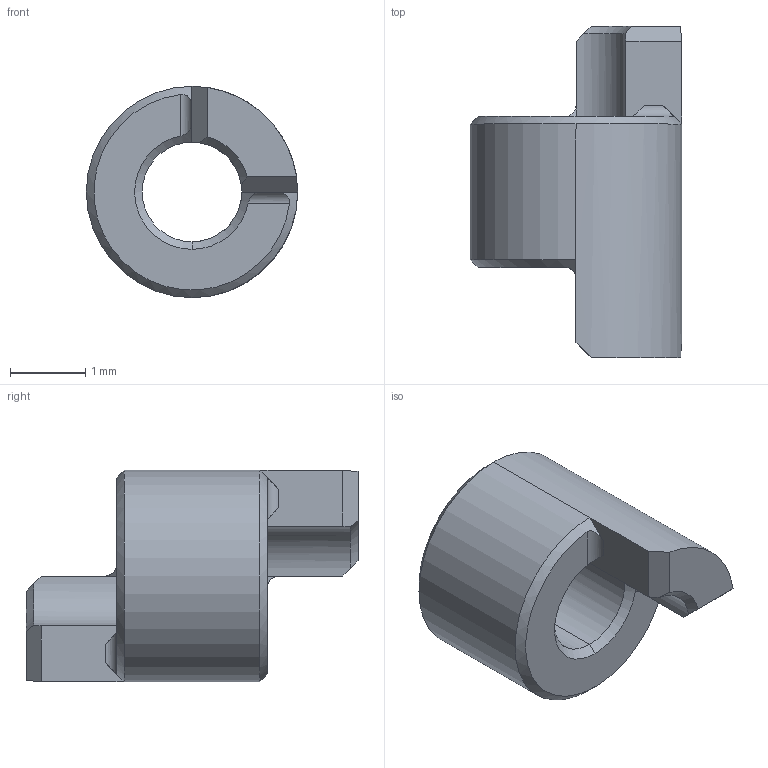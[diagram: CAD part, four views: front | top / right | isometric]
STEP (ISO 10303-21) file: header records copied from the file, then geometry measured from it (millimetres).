
FILE_DESCRIPTION (( 'STEP AP214' ), '1' );
FILE_NAME ('TRL-0042-A.STEP', '2021-06-25T20:01:41', ( '' ), ( '' ), 'SwSTEP 2.0', 'SolidWorks 2016', '' );
FILE_SCHEMA (( 'AUTOMOTIVE_DESIGN' ));
Length unit declared in the file: millimetre
Products named in the file (1): TRL-0042-A
Bounding box: 2.8 x 4.4 x 2.8 mm (x, y, z)
Volume: 12.3 mm3; surface area: 45 mm2
Topology: 1 solids, 1 shells, 28 faces, 78 edges, 50 vertices
Faces by surface type: plane 12, cone 8, cylinder 8
Entity records: 964 total; most frequent: CARTESIAN_POINT 237, ORIENTED_EDGE 156, DIRECTION 136, EDGE_CURVE 78, VERTEX_POINT 50, AXIS2_PLACEMENT_3D 49, VECTOR 38, LINE 38
